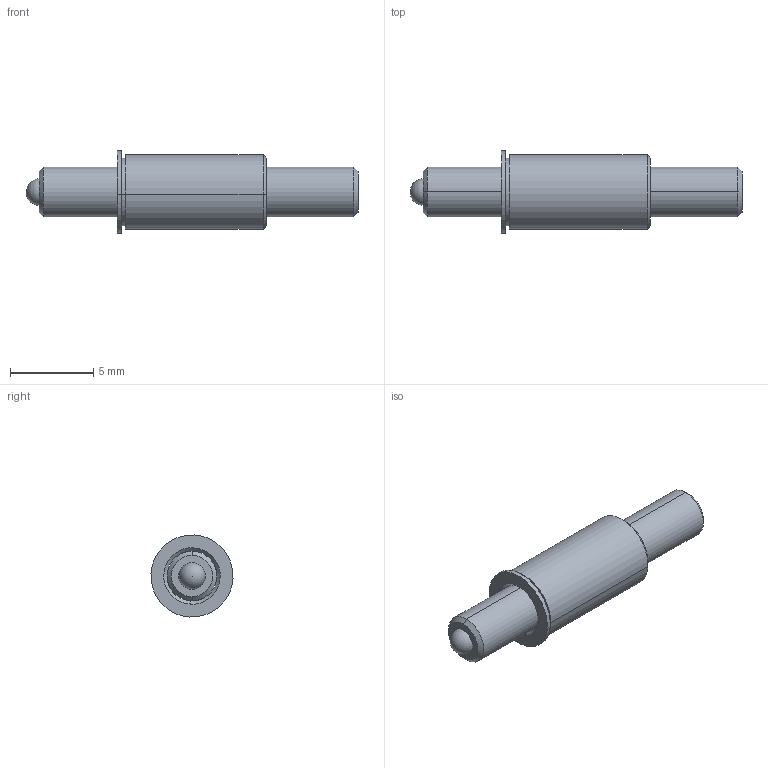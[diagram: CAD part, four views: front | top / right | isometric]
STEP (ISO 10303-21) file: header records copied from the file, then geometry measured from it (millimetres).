
FILE_DESCRIPTION (( 'STEP AP214' ), '1' );
FILE_NAME ('TSBM3-25-20_9.STEP', '2013-03-14T20:14:54', ( 'workpc' ), ( 'Microsoft' ), 'SwSTEP 2.0', 'SolidWorks 2013', '' );
FILE_SCHEMA (( 'AUTOMOTIVE_DESIGN' ));
Length unit declared in the file: inch
Products named in the file (1): TSBM3-25-20_9
Bounding box: 20 x 4.94 x 4.94 mm (x, y, z)
Surface area: 363.6 mm2 (no closed solid volume)
Topology: 0 solids, 3 shells, 32 faces, 75 edges, 49 vertices
Faces by surface type: plane 12, cone 10, cylinder 8, sphere 2
Entity records: 1325 total; most frequent: DIRECTION 170, CARTESIAN_POINT 149, ORIENTED_EDGE 128, EDGE_CURVE 70, AXIS2_PLACEMENT_3D 67, VERTEX_POINT 46, EDGE_LOOP 38, VECTOR 36
